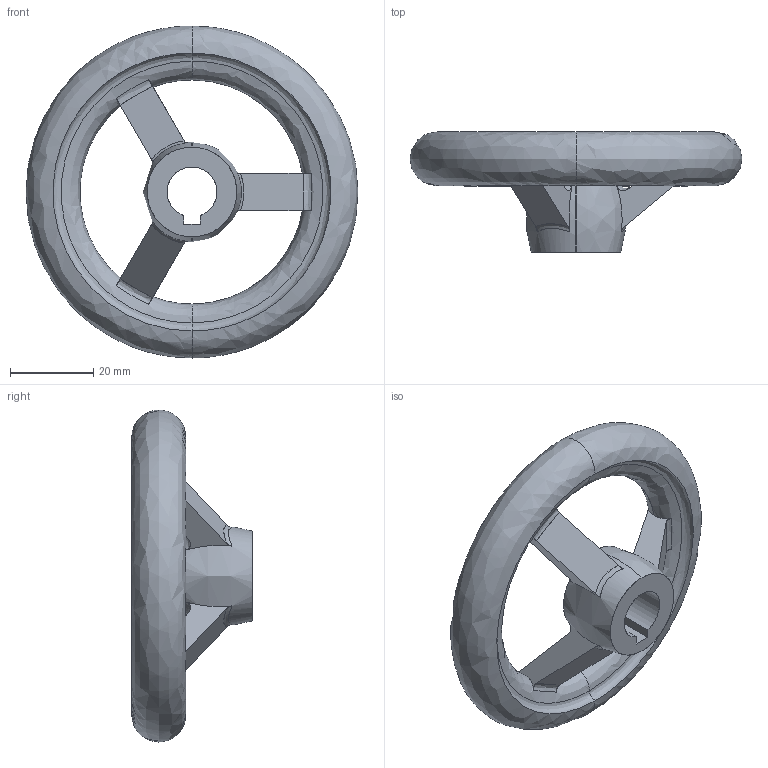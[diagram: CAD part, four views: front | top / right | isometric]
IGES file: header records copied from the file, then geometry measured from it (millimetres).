
Start section: SolidWorks IGES file using analytic representation for surfaces
Global section: file name: C:\Users\IanO\Desktop\Temp File\Process pending\77120_v2\77120_v2_20171108_IGES\77120.W0101.igs; native system: SolidWorks 2017; preprocessor: SolidWorks 2017; author: IanO; date: 171108.084133; units: millimetre
Bounding box: 80 x 29 x 80 mm (x, y, z)
Surface area: 12404.9 mm2 (no closed solid volume)
Topology: 0 solids, 0 shells, 45 faces, 795 edges, 787 vertices
Faces by surface type: bspline 44, revolution 1
